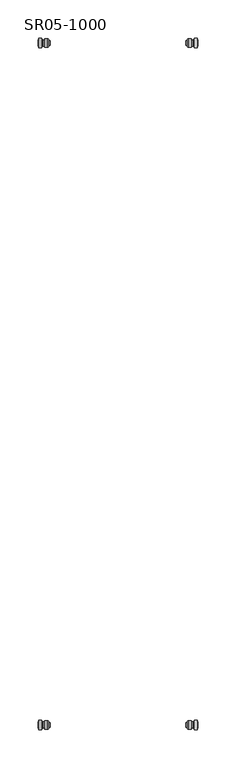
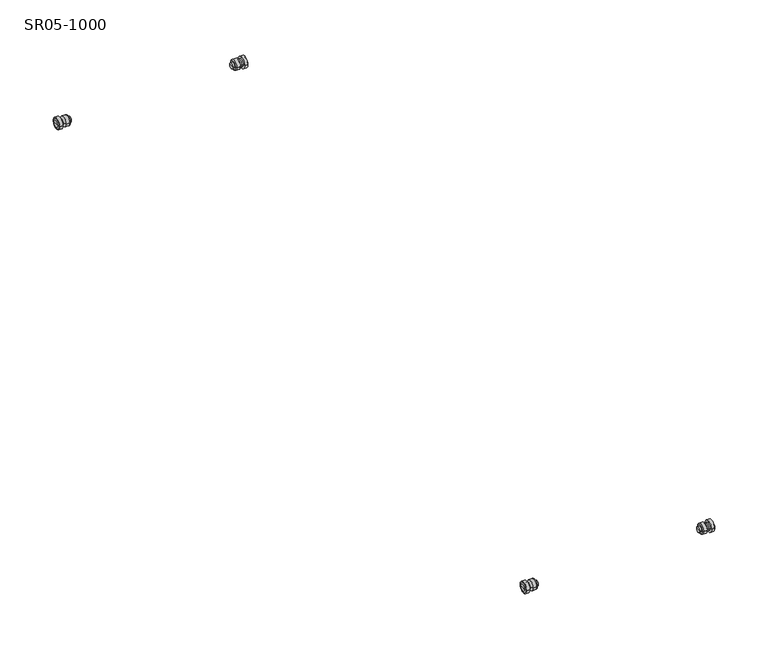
"""IFC4 building model written with IfcOpenShell, lengths in millimetres: proxy geometry, Уголки : SR05-1000."""

from ifc_helpers import new_model, si_unit, point, frame, origin, place, context, project, spatial, circle_curve, ellipse_curve, trimmed, source, transform, mapped, element, save
from ifc_brep_helpers import plane_surface, cylinder_surface, revolved_surface, advanced_brep


def sr05_1000_026dfe76(model_context):
    return source(origin(), model_context, "Body", "AdvancedBrep", [
        advanced_brep(
        [(104.3500066, -445.0, 24.0), (104.3500066, -448.4999948, 24.0), (104.3500066, -441.5000052, 24.0), (88.7499958, -442.0000014, 24.0), (88.7499958, -447.9999986, 24.0), (88.7499958, -445.0, 24.0), (90.7999933, -442.0000014, 24.0), (90.7999933, -447.9999986, 24.0), (90.7999933, -440.5000058, 24.0), (90.7999933, -449.4999942, 24.0), (91.7999994, -439.5000052, 24.0), (91.7999994, -450.4999948, 24.0), (95.7999994, -439.5000038, 24.0), (95.7999994, -450.4999962, 24.0), (97.9999959, -440.8266569, 24.0), (97.9999959, -449.1733431, 24.0), (100.0, -438.7499985, 24.0), (100.0, -451.2500015, 24.0), (100.0, -449.1733431, 24.0), (100.0, -440.8266569, 24.0), (103.4999996, -438.7499985, 24.0), (103.4999996, -451.2500015, 24.0), (103.4999996, -439.6218414, 24.0), (103.4999996, -450.3781586, 24.0)],
        [
            (0, 1),
            (1, 2, circle_curve(frame((104.3500066, -445.0, 24.0), z_axis=(1.0, 0.0, 0.0), x_axis=(0.0, -1.0, 0.0)), 3.4999948)),
            (2, 0),
            (2, 1, circle_curve(frame((104.3500066, -445.0, 24.0), z_axis=(1.0, 0.0, 0.0), x_axis=(0.0, -1.0, 0.0)), 3.4999948)),
            (3, 4, circle_curve(frame((88.7499958, -445.0, 24.0), z_axis=(-1.0, 0.0, 0.0), x_axis=(0.0, -1.0, 0.0)), 2.9999986)),
            (4, 5),
            (5, 3),
            (4, 3, circle_curve(frame((88.7499958, -445.0, 24.0), z_axis=(-1.0, 0.0, 0.0), x_axis=(0.0, -1.0, 0.0)), 2.9999986)),
            (6, 7, circle_curve(frame((90.7999933, -445.0, 24.0), z_axis=(-1.0, 0.0, 0.0), x_axis=(0.0, -1.0, 0.0)), 2.9999986)),
            (7, 4),
            (3, 6),
            (7, 6, circle_curve(frame((90.7999933, -445.0, 24.0), z_axis=(-1.0, 0.0, 0.0), x_axis=(0.0, -1.0, 0.0)), 2.9999986)),
            (8, 9, circle_curve(frame((90.7999933, -445.0, 24.0), z_axis=(-1.0, 0.0, 0.0), x_axis=(0.0, -1.0, 0.0)), 4.4999942)),
            (9, 7),
            (6, 8),
            (9, 8, circle_curve(frame((90.7999933, -445.0, 24.0), z_axis=(-1.0, 0.0, 0.0), x_axis=(0.0, -1.0, 0.0)), 4.4999942)),
            (10, 11, circle_curve(frame((91.7999994, -445.0, 24.0), z_axis=(-1.0, 0.0, 0.0), x_axis=(0.0, -1.0, 0.0)), 5.4999948)),
            (11, 9, circle_curve(frame((91.7999994, -449.4999948, 24.0), z_axis=(0.0, 0.0, -1.0), x_axis=(0.0, 1.0, 0.0)), 1.0)),
            (8, 10, circle_curve(frame((91.7999994, -440.5000052, 24.0), z_axis=(0.0, 0.0, -1.0), x_axis=(0.0, -1.0, 0.0)), 1.0)),
            (11, 10, circle_curve(frame((91.7999994, -445.0, 24.0), z_axis=(-1.0, 0.0, 0.0), x_axis=(0.0, -1.0, 0.0)), 5.4999948)),
            (12, 13, circle_curve(frame((95.7999994, -445.0, 24.0), z_axis=(-1.0, 0.0, 0.0), x_axis=(0.0, -1.0, 0.0)), 5.4999962)),
            (13, 11),
            (10, 12),
            (13, 12, circle_curve(frame((95.7999994, -445.0, 24.0), z_axis=(-1.0, 0.0, 0.0), x_axis=(0.0, -1.0, 0.0)), 5.4999962)),
            (14, 15, circle_curve(frame((97.9999959, -445.0, 24.0), z_axis=(-1.0, 0.0, 0.0), x_axis=(0.0, -1.0, 0.0)), 4.1733431)),
            (15, 13, circle_curve(frame((97.2999994, -450.4999948, 24.0), z_axis=(0.0, 0.0, 1.0), x_axis=(0.0, 1.0, 0.0)), 1.5)),
            (12, 14, circle_curve(frame((97.2999994, -439.5000052, 24.0), z_axis=(0.0, 0.0, 1.0), x_axis=(0.0, -1.0, 0.0)), 1.5)),
            (15, 14, circle_curve(frame((97.9999959, -445.0, 24.0), z_axis=(-1.0, 0.0, 0.0), x_axis=(0.0, -1.0, 0.0)), 4.1733431)),
            (16, 17, circle_curve(frame((100.0, -445.0, 24.0), z_axis=(-1.0, 0.0, 0.0), x_axis=(0.0, -1.0, 0.0)), 6.2500015)),
            (17, 18),
            (18, 19, circle_curve(frame((100.0, -445.0, 24.0), z_axis=(1.0, 0.0, 0.0), x_axis=(0.0, -1.0, 0.0)), 4.1733431)),
            (19, 16),
            (17, 16, circle_curve(frame((100.0, -445.0, 24.0), z_axis=(-1.0, 0.0, 0.0), x_axis=(0.0, -1.0, 0.0)), 6.2500015)),
            (19, 18, circle_curve(frame((100.0, -445.0, 24.0), z_axis=(1.0, 0.0, 0.0), x_axis=(0.0, -1.0, 0.0)), 4.1733431)),
            (20, 21, circle_curve(frame((103.4999996, -445.0, 24.0), z_axis=(-1.0, 0.0, 0.0), x_axis=(0.0, -1.0, 0.0)), 6.2500015)),
            (21, 17),
            (16, 20),
            (21, 20, circle_curve(frame((103.4999996, -445.0, 24.0), z_axis=(-1.0, 0.0, 0.0), x_axis=(0.0, -1.0, 0.0)), 6.2500015)),
            (22, 23, circle_curve(frame((103.4999996, -445.0, 24.0), z_axis=(-1.0, 0.0, 0.0), x_axis=(0.0, -1.0, 0.0)), 5.3781586)),
            (23, 21),
            (20, 22),
            (23, 22, circle_curve(frame((103.4999996, -445.0, 24.0), z_axis=(-1.0, 0.0, 0.0), x_axis=(0.0, -1.0, 0.0)), 5.3781586)),
            (1, 23, circle_curve(frame((101.8499994, -448.4999948, 24.0), z_axis=(0.0, 0.0, -1.0), x_axis=(0.0, 1.0, 0.0)), 2.5)),
            (22, 2, circle_curve(frame((101.8499994, -441.5000052, 24.0), z_axis=(0.0, 0.0, -1.0), x_axis=(0.0, -1.0, 0.0)), 2.5)),
            (18, 15),
            (14, 19),
        ],
        [
            plane_surface(frame((104.3500066, -445.0, 24.0), z_axis=(1.0, 0.0, 0.0), x_axis=(0.0, -1.0, 0.0))),
            plane_surface(frame((88.7499958, -445.0, 24.0), z_axis=(-1.0, 0.0, 0.0), x_axis=(0.0, -1.0, 0.0))),
            cylinder_surface(frame((-1900.0, -445.0, 24.0), z_axis=(1.0, 0.0, 0.0), x_axis=(0.0, -1.0, 0.0)), 2.9999986),
            plane_surface(frame((90.7999933, -445.0, 24.0), z_axis=(-1.0, 0.0, 0.0), x_axis=(0.0, -1.0, 0.0))),
            revolved_surface(trimmed(ellipse_curve(frame((91.7999994, -449.4999948, 24.0), z_axis=(0.0, 0.0, 1.0), x_axis=(0.0, 1.0, 0.0)), 1.0, 1.0), [point((90.7999994, -449.4999948, 24.0))], [point((91.7999994, -450.4999948, 24.0))], True, "CARTESIAN"), (-1900.0, -445.0, 24.0), (1.0, 0.0, 0.0)),
            cylinder_surface(frame((-1900.0, -445.0, 24.0), z_axis=(1.0, 0.0, 0.0), x_axis=(0.0, -1.0, 0.0)), 5.4999962),
            revolved_surface(trimmed(ellipse_curve(frame((97.2999994, -450.4999948, 24.0), z_axis=(0.0, 0.0, -1.0), x_axis=(0.0, 1.0, 0.0)), 1.5, 1.5), [point((95.7999994, -450.4999962, 24.0))], [point((97.9999959, -449.1733431, 24.0))], True, "CARTESIAN"), (-1900.0, -445.0, 24.0), (1.0, 0.0, 0.0)),
            plane_surface(frame((100.0, -445.0, 24.0), z_axis=(-1.0, 0.0, 0.0), x_axis=(0.0, -1.0, 0.0))),
            cylinder_surface(frame((-1900.0, -445.0, 24.0), z_axis=(1.0, 0.0, 0.0), x_axis=(0.0, -1.0, 0.0)), 6.2500015),
            plane_surface(frame((103.4999996, -445.0, 24.0), z_axis=(1.0, 0.0, 0.0), x_axis=(0.0, -1.0, 0.0))),
            revolved_surface(trimmed(ellipse_curve(frame((101.8499994, -448.4999948, 24.0), z_axis=(0.0, 0.0, 1.0), x_axis=(0.0, 1.0, 0.0)), 2.5, 2.5), [point((103.4999996, -450.3781586, 24.0))], [point((104.3499994, -448.4999948, 24.0))], True, "CARTESIAN"), (-1900.0, -445.0, 24.0), (1.0, 0.0, 0.0)),
            cylinder_surface(frame((-1900.0, -445.0, 24.0), z_axis=(1.0, 0.0, 0.0), x_axis=(0.0, -1.0, 0.0)), 4.1733431),
        ],
        [
            (0, [[1, 2, 3]]),
            (0, [[-3, 4, -1]]),
            (1, [[5, 6, 7]]),
            (1, [[8, -7, -6]]),
            (2, [[9, 10, -5, 11]]),
            (2, [[12, -11, -8, -10]]),
            (3, [[13, 14, -9, 15]]),
            (3, [[16, -15, -12, -14]]),
            (4, [[17, 18, -13, 19]]),
            (4, [[20, -19, -16, -18]]),
            (5, [[21, 22, -17, 23]]),
            (5, [[24, -23, -20, -22]]),
            (6, [[25, 26, -21, 27]]),
            (6, [[28, -27, -24, -26]]),
            (7, [[29, 30, 31, 32]]),
            (7, [[33, -32, 34, -30]]),
            (8, [[35, 36, -29, 37]]),
            (8, [[38, -37, -33, -36]]),
            (9, [[39, 40, -35, 41]]),
            (9, [[42, -41, -38, -40]]),
            (10, [[-2, 43, -39, 44]]),
            (10, [[-4, -44, -42, -43]]),
            (11, [[-31, 45, -25, 46]]),
            (11, [[-34, -46, -28, -45]]),
        ],
    ),
        advanced_brep(
        [(104.3500066, 445.0, 24.0), (104.3500066, 441.5000052, 24.0), (104.3500066, 448.4999948, 24.0), (88.7499958, 447.9999986, 24.0), (88.7499958, 442.0000014, 24.0), (88.7499958, 445.0, 24.0), (90.7999933, 447.9999986, 24.0), (90.7999933, 442.0000014, 24.0), (90.7999933, 449.4999942, 24.0), (90.7999933, 440.5000058, 24.0), (91.7999994, 450.4999948, 24.0), (91.7999994, 439.5000052, 24.0), (95.7999994, 450.4999962, 24.0), (95.7999994, 439.5000038, 24.0), (97.9999959, 449.1733431, 24.0), (97.9999959, 440.8266569, 24.0), (100.0, 451.2500015, 24.0), (100.0, 438.7499985, 24.0), (100.0, 440.8266569, 24.0), (100.0, 449.1733431, 24.0), (103.4999996, 451.2500015, 24.0), (103.4999996, 438.7499985, 24.0), (103.4999996, 450.3781586, 24.0), (103.4999996, 439.6218414, 24.0)],
        [
            (0, 1),
            (1, 2, circle_curve(frame((104.3500066, 445.0, 24.0), z_axis=(1.0, 0.0, 0.0), x_axis=(0.0, -1.0, 0.0)), 3.4999948)),
            (2, 0),
            (2, 1, circle_curve(frame((104.3500066, 445.0, 24.0), z_axis=(1.0, 0.0, 0.0), x_axis=(0.0, -1.0, 0.0)), 3.4999948)),
            (3, 4, circle_curve(frame((88.7499958, 445.0, 24.0), z_axis=(-1.0, 0.0, 0.0), x_axis=(0.0, -1.0, 0.0)), 2.9999986)),
            (4, 5),
            (5, 3),
            (4, 3, circle_curve(frame((88.7499958, 445.0, 24.0), z_axis=(-1.0, 0.0, 0.0), x_axis=(0.0, -1.0, 0.0)), 2.9999986)),
            (6, 7, circle_curve(frame((90.7999933, 445.0, 24.0), z_axis=(-1.0, 0.0, 0.0), x_axis=(0.0, -1.0, 0.0)), 2.9999986)),
            (7, 4),
            (3, 6),
            (7, 6, circle_curve(frame((90.7999933, 445.0, 24.0), z_axis=(-1.0, 0.0, 0.0), x_axis=(0.0, -1.0, 0.0)), 2.9999986)),
            (8, 9, circle_curve(frame((90.7999933, 445.0, 24.0), z_axis=(-1.0, 0.0, 0.0), x_axis=(0.0, -1.0, 0.0)), 4.4999942)),
            (9, 7),
            (6, 8),
            (9, 8, circle_curve(frame((90.7999933, 445.0, 24.0), z_axis=(-1.0, 0.0, 0.0), x_axis=(0.0, -1.0, 0.0)), 4.4999942)),
            (10, 11, circle_curve(frame((91.7999994, 445.0, 24.0), z_axis=(-1.0, 0.0, 0.0), x_axis=(0.0, -1.0, 0.0)), 5.4999948)),
            (11, 9, circle_curve(frame((91.7999994, 440.5000052, 24.0), z_axis=(0.0, 0.0, -1.0), x_axis=(0.0, 1.0, 0.0)), 1.0)),
            (8, 10, circle_curve(frame((91.7999994, 449.4999948, 24.0), z_axis=(0.0, 0.0, -1.0), x_axis=(0.0, -1.0, 0.0)), 1.0)),
            (11, 10, circle_curve(frame((91.7999994, 445.0, 24.0), z_axis=(-1.0, 0.0, 0.0), x_axis=(0.0, -1.0, 0.0)), 5.4999948)),
            (12, 13, circle_curve(frame((95.7999994, 445.0, 24.0), z_axis=(-1.0, 0.0, 0.0), x_axis=(0.0, -1.0, 0.0)), 5.4999962)),
            (13, 11),
            (10, 12),
            (13, 12, circle_curve(frame((95.7999994, 445.0, 24.0), z_axis=(-1.0, 0.0, 0.0), x_axis=(0.0, -1.0, 0.0)), 5.4999962)),
            (14, 15, circle_curve(frame((97.9999959, 445.0, 24.0), z_axis=(-1.0, 0.0, 0.0), x_axis=(0.0, -1.0, 0.0)), 4.1733431)),
            (15, 13, circle_curve(frame((97.2999994, 439.5000052, 24.0), z_axis=(0.0, 0.0, 1.0), x_axis=(0.0, 1.0, 0.0)), 1.5)),
            (12, 14, circle_curve(frame((97.2999994, 450.4999948, 24.0), z_axis=(0.0, 0.0, 1.0), x_axis=(0.0, -1.0, 0.0)), 1.5)),
            (15, 14, circle_curve(frame((97.9999959, 445.0, 24.0), z_axis=(-1.0, 0.0, 0.0), x_axis=(0.0, -1.0, 0.0)), 4.1733431)),
            (16, 17, circle_curve(frame((100.0, 445.0, 24.0), z_axis=(-1.0, 0.0, 0.0), x_axis=(0.0, -1.0, 0.0)), 6.2500015)),
            (17, 18),
            (18, 19, circle_curve(frame((100.0, 445.0, 24.0), z_axis=(1.0, 0.0, 0.0), x_axis=(0.0, -1.0, 0.0)), 4.1733431)),
            (19, 16),
            (17, 16, circle_curve(frame((100.0, 445.0, 24.0), z_axis=(-1.0, 0.0, 0.0), x_axis=(0.0, -1.0, 0.0)), 6.2500015)),
            (19, 18, circle_curve(frame((100.0, 445.0, 24.0), z_axis=(1.0, 0.0, 0.0), x_axis=(0.0, -1.0, 0.0)), 4.1733431)),
            (20, 21, circle_curve(frame((103.4999996, 445.0, 24.0), z_axis=(-1.0, 0.0, 0.0), x_axis=(0.0, -1.0, 0.0)), 6.2500015)),
            (21, 17),
            (16, 20),
            (21, 20, circle_curve(frame((103.4999996, 445.0, 24.0), z_axis=(-1.0, 0.0, 0.0), x_axis=(0.0, -1.0, 0.0)), 6.2500015)),
            (22, 23, circle_curve(frame((103.4999996, 445.0, 24.0), z_axis=(-1.0, 0.0, 0.0), x_axis=(0.0, -1.0, 0.0)), 5.3781586)),
            (23, 21),
            (20, 22),
            (23, 22, circle_curve(frame((103.4999996, 445.0, 24.0), z_axis=(-1.0, 0.0, 0.0), x_axis=(0.0, -1.0, 0.0)), 5.3781586)),
            (1, 23, circle_curve(frame((101.8499994, 441.5000052, 24.0), z_axis=(0.0, 0.0, -1.0), x_axis=(0.0, 1.0, 0.0)), 2.5)),
            (22, 2, circle_curve(frame((101.8499994, 448.4999948, 24.0), z_axis=(0.0, 0.0, -1.0), x_axis=(0.0, -1.0, 0.0)), 2.5)),
            (18, 15),
            (14, 19),
        ],
        [
            plane_surface(frame((104.3500066, 445.0, 24.0), z_axis=(1.0, 0.0, 0.0), x_axis=(0.0, -1.0, 0.0))),
            plane_surface(frame((88.7499958, 445.0, 24.0), z_axis=(-1.0, 0.0, 0.0), x_axis=(0.0, -1.0, 0.0))),
            cylinder_surface(frame((-1900.0, 445.0, 24.0), z_axis=(1.0, 0.0, 0.0), x_axis=(0.0, -1.0, 0.0)), 2.9999986),
            plane_surface(frame((90.7999933, 445.0, 24.0), z_axis=(-1.0, 0.0, 0.0), x_axis=(0.0, -1.0, 0.0))),
            revolved_surface(trimmed(ellipse_curve(frame((91.7999994, 440.5000052, 24.0), z_axis=(0.0, 0.0, 1.0), x_axis=(0.0, 1.0, 0.0)), 1.0, 1.0), [point((90.7999994, 440.5000052, 24.0))], [point((91.7999994, 439.5000052, 24.0))], True, "CARTESIAN"), (-1900.0, 445.0, 24.0), (1.0, 0.0, 0.0)),
            cylinder_surface(frame((-1900.0, 445.0, 24.0), z_axis=(1.0, 0.0, 0.0), x_axis=(0.0, -1.0, 0.0)), 5.4999962),
            revolved_surface(trimmed(ellipse_curve(frame((97.2999994, 439.5000052, 24.0), z_axis=(0.0, 0.0, -1.0), x_axis=(0.0, 1.0, 0.0)), 1.5, 1.5), [point((95.7999994, 439.5000038, 24.0))], [point((97.9999959, 440.8266569, 24.0))], True, "CARTESIAN"), (-1900.0, 445.0, 24.0), (1.0, 0.0, 0.0)),
            plane_surface(frame((100.0, 445.0, 24.0), z_axis=(-1.0, 0.0, 0.0), x_axis=(0.0, -1.0, 0.0))),
            cylinder_surface(frame((-1900.0, 445.0, 24.0), z_axis=(1.0, 0.0, 0.0), x_axis=(0.0, -1.0, 0.0)), 6.2500015),
            plane_surface(frame((103.4999996, 445.0, 24.0), z_axis=(1.0, 0.0, 0.0), x_axis=(0.0, -1.0, 0.0))),
            revolved_surface(trimmed(ellipse_curve(frame((101.8499994, 441.5000052, 24.0), z_axis=(0.0, 0.0, 1.0), x_axis=(0.0, 1.0, 0.0)), 2.5, 2.5), [point((103.4999996, 439.6218414, 24.0))], [point((104.3499994, 441.5000052, 24.0))], True, "CARTESIAN"), (-1900.0, 445.0, 24.0), (1.0, 0.0, 0.0)),
            cylinder_surface(frame((-1900.0, 445.0, 24.0), z_axis=(1.0, 0.0, 0.0), x_axis=(0.0, -1.0, 0.0)), 4.1733431),
        ],
        [
            (0, [[1, 2, 3]]),
            (0, [[-3, 4, -1]]),
            (1, [[5, 6, 7]]),
            (1, [[8, -7, -6]]),
            (2, [[9, 10, -5, 11]]),
            (2, [[12, -11, -8, -10]]),
            (3, [[13, 14, -9, 15]]),
            (3, [[16, -15, -12, -14]]),
            (4, [[17, 18, -13, 19]]),
            (4, [[20, -19, -16, -18]]),
            (5, [[21, 22, -17, 23]]),
            (5, [[24, -23, -20, -22]]),
            (6, [[25, 26, -21, 27]]),
            (6, [[28, -27, -24, -26]]),
            (7, [[29, 30, 31, 32]]),
            (7, [[33, -32, 34, -30]]),
            (8, [[35, 36, -29, 37]]),
            (8, [[38, -37, -33, -36]]),
            (9, [[39, 40, -35, 41]]),
            (9, [[42, -41, -38, -40]]),
            (10, [[-2, 43, -39, 44]]),
            (10, [[-4, -44, -42, -43]]),
            (11, [[-31, 45, -25, 46]]),
            (11, [[-34, -46, -28, -45]]),
        ],
    ),
        advanced_brep(
        [(-104.3500066, 445.0, 24.0), (-104.3500066, 448.4999948, 24.0), (-104.3500066, 441.5000052, 24.0), (-88.7499958, 442.0000014, 24.0), (-88.7499958, 447.9999986, 24.0), (-88.7499958, 445.0, 24.0), (-90.7999933, 442.0000014, 24.0), (-90.7999933, 447.9999986, 24.0), (-90.7999933, 440.5000058, 24.0), (-90.7999933, 449.4999942, 24.0), (-91.7999994, 439.5000052, 24.0), (-91.7999994, 450.4999948, 24.0), (-95.7999994, 439.5000038, 24.0), (-95.7999994, 450.4999962, 24.0), (-97.9999959, 440.8266569, 24.0), (-97.9999959, 449.1733431, 24.0), (-100.0, 438.7499985, 24.0), (-100.0, 451.2500015, 24.0), (-100.0, 449.1733431, 24.0), (-100.0, 440.8266569, 24.0), (-103.4999996, 438.7499985, 24.0), (-103.4999996, 451.2500015, 24.0), (-103.4999996, 439.6218414, 24.0), (-103.4999996, 450.3781586, 24.0)],
        [
            (0, 1),
            (1, 2, circle_curve(frame((-104.3500066, 445.0, 24.0), z_axis=(-1.0, 0.0, 0.0), x_axis=(0.0, 1.0, 0.0)), 3.4999948)),
            (2, 0),
            (2, 1, circle_curve(frame((-104.3500066, 445.0, 24.0), z_axis=(-1.0, 0.0, 0.0), x_axis=(0.0, 1.0, 0.0)), 3.4999948)),
            (3, 4, circle_curve(frame((-88.7499958, 445.0, 24.0), z_axis=(1.0, 0.0, 0.0), x_axis=(0.0, 1.0, 0.0)), 2.9999986)),
            (4, 5),
            (5, 3),
            (4, 3, circle_curve(frame((-88.7499958, 445.0, 24.0), z_axis=(1.0, 0.0, 0.0), x_axis=(0.0, 1.0, 0.0)), 2.9999986)),
            (6, 7, circle_curve(frame((-90.7999933, 445.0, 24.0), z_axis=(1.0, 0.0, 0.0), x_axis=(0.0, 1.0, 0.0)), 2.9999986)),
            (7, 4),
            (3, 6),
            (7, 6, circle_curve(frame((-90.7999933, 445.0, 24.0), z_axis=(1.0, 0.0, 0.0), x_axis=(0.0, 1.0, 0.0)), 2.9999986)),
            (8, 9, circle_curve(frame((-90.7999933, 445.0, 24.0), z_axis=(1.0, 0.0, 0.0), x_axis=(0.0, 1.0, 0.0)), 4.4999942)),
            (9, 7),
            (6, 8),
            (9, 8, circle_curve(frame((-90.7999933, 445.0, 24.0), z_axis=(1.0, 0.0, 0.0), x_axis=(0.0, 1.0, 0.0)), 4.4999942)),
            (10, 11, circle_curve(frame((-91.7999994, 445.0, 24.0), z_axis=(1.0, 0.0, 0.0), x_axis=(0.0, 1.0, 0.0)), 5.4999948)),
            (11, 9, circle_curve(frame((-91.7999994, 449.4999948, 24.0), z_axis=(0.0, 0.0, -1.0), x_axis=(0.0, -1.0, 0.0)), 1.0)),
            (8, 10, circle_curve(frame((-91.7999994, 440.5000052, 24.0), z_axis=(0.0, 0.0, -1.0), x_axis=(0.0, 1.0, 0.0)), 1.0)),
            (11, 10, circle_curve(frame((-91.7999994, 445.0, 24.0), z_axis=(1.0, 0.0, 0.0), x_axis=(0.0, 1.0, 0.0)), 5.4999948)),
            (12, 13, circle_curve(frame((-95.7999994, 445.0, 24.0), z_axis=(1.0, 0.0, 0.0), x_axis=(0.0, 1.0, 0.0)), 5.4999962)),
            (13, 11),
            (10, 12),
            (13, 12, circle_curve(frame((-95.7999994, 445.0, 24.0), z_axis=(1.0, 0.0, 0.0), x_axis=(0.0, 1.0, 0.0)), 5.4999962)),
            (14, 15, circle_curve(frame((-97.9999959, 445.0, 24.0), z_axis=(1.0, 0.0, 0.0), x_axis=(0.0, 1.0, 0.0)), 4.1733431)),
            (15, 13, circle_curve(frame((-97.2999994, 450.4999948, 24.0), z_axis=(0.0, 0.0, 1.0), x_axis=(0.0, -1.0, 0.0)), 1.5)),
            (12, 14, circle_curve(frame((-97.2999994, 439.5000052, 24.0), z_axis=(0.0, 0.0, 1.0), x_axis=(0.0, 1.0, 0.0)), 1.5)),
            (15, 14, circle_curve(frame((-97.9999959, 445.0, 24.0), z_axis=(1.0, 0.0, 0.0), x_axis=(0.0, 1.0, 0.0)), 4.1733431)),
            (16, 17, circle_curve(frame((-100.0, 445.0, 24.0), z_axis=(1.0, 0.0, 0.0), x_axis=(0.0, 1.0, 0.0)), 6.2500015)),
            (17, 18),
            (18, 19, circle_curve(frame((-100.0, 445.0, 24.0), z_axis=(-1.0, 0.0, 0.0), x_axis=(0.0, 1.0, 0.0)), 4.1733431)),
            (19, 16),
            (17, 16, circle_curve(frame((-100.0, 445.0, 24.0), z_axis=(1.0, 0.0, 0.0), x_axis=(0.0, 1.0, 0.0)), 6.2500015)),
            (19, 18, circle_curve(frame((-100.0, 445.0, 24.0), z_axis=(-1.0, 0.0, 0.0), x_axis=(0.0, 1.0, 0.0)), 4.1733431)),
            (20, 21, circle_curve(frame((-103.4999996, 445.0, 24.0), z_axis=(1.0, 0.0, 0.0), x_axis=(0.0, 1.0, 0.0)), 6.2500015)),
            (21, 17),
            (16, 20),
            (21, 20, circle_curve(frame((-103.4999996, 445.0, 24.0), z_axis=(1.0, 0.0, 0.0), x_axis=(0.0, 1.0, 0.0)), 6.2500015)),
            (22, 23, circle_curve(frame((-103.4999996, 445.0, 24.0), z_axis=(1.0, 0.0, 0.0), x_axis=(0.0, 1.0, 0.0)), 5.3781586)),
            (23, 21),
            (20, 22),
            (23, 22, circle_curve(frame((-103.4999996, 445.0, 24.0), z_axis=(1.0, 0.0, 0.0), x_axis=(0.0, 1.0, 0.0)), 5.3781586)),
            (1, 23, circle_curve(frame((-101.8499994, 448.4999948, 24.0), z_axis=(0.0, 0.0, -1.0), x_axis=(0.0, -1.0, 0.0)), 2.5)),
            (22, 2, circle_curve(frame((-101.8499994, 441.5000052, 24.0), z_axis=(0.0, 0.0, -1.0), x_axis=(0.0, 1.0, 0.0)), 2.5)),
            (18, 15),
            (14, 19),
        ],
        [
            plane_surface(frame((-104.3500066, 445.0, 24.0), z_axis=(-1.0, 0.0, 0.0), x_axis=(0.0, 1.0, 0.0))),
            plane_surface(frame((-88.7499958, 445.0, 24.0), z_axis=(1.0, 0.0, 0.0), x_axis=(0.0, 1.0, 0.0))),
            cylinder_surface(frame((1900.0, 445.0, 24.0), z_axis=(-1.0, 0.0, 0.0), x_axis=(0.0, 1.0, 0.0)), 2.9999986),
            plane_surface(frame((-90.7999933, 445.0, 24.0), z_axis=(1.0, 0.0, 0.0), x_axis=(0.0, 1.0, 0.0))),
            revolved_surface(trimmed(ellipse_curve(frame((-91.7999994, 449.4999948, 24.0), z_axis=(0.0, 0.0, 1.0), x_axis=(0.0, -1.0, 0.0)), 1.0, 1.0), [point((-90.7999994, 449.4999948, 24.0))], [point((-91.7999994, 450.4999948, 24.0))], True, "CARTESIAN"), (1900.0, 445.0, 24.0), (-1.0, 0.0, 0.0)),
            cylinder_surface(frame((1900.0, 445.0, 24.0), z_axis=(-1.0, 0.0, 0.0), x_axis=(0.0, 1.0, 0.0)), 5.4999962),
            revolved_surface(trimmed(ellipse_curve(frame((-97.2999994, 450.4999948, 24.0), z_axis=(0.0, 0.0, -1.0), x_axis=(0.0, -1.0, 0.0)), 1.5, 1.5), [point((-95.7999994, 450.4999962, 24.0))], [point((-97.9999959, 449.1733431, 24.0))], True, "CARTESIAN"), (1900.0, 445.0, 24.0), (-1.0, 0.0, 0.0)),
            plane_surface(frame((-100.0, 445.0, 24.0), z_axis=(1.0, 0.0, 0.0), x_axis=(0.0, 1.0, 0.0))),
            cylinder_surface(frame((1900.0, 445.0, 24.0), z_axis=(-1.0, 0.0, 0.0), x_axis=(0.0, 1.0, 0.0)), 6.2500015),
            plane_surface(frame((-103.4999996, 445.0, 24.0), z_axis=(-1.0, 0.0, 0.0), x_axis=(0.0, 1.0, 0.0))),
            revolved_surface(trimmed(ellipse_curve(frame((-101.8499994, 448.4999948, 24.0), z_axis=(0.0, 0.0, 1.0), x_axis=(0.0, -1.0, 0.0)), 2.5, 2.5), [point((-103.4999996, 450.3781586, 24.0))], [point((-104.3499994, 448.4999948, 24.0))], True, "CARTESIAN"), (1900.0, 445.0, 24.0), (-1.0, 0.0, 0.0)),
            cylinder_surface(frame((1900.0, 445.0, 24.0), z_axis=(-1.0, 0.0, 0.0), x_axis=(0.0, 1.0, 0.0)), 4.1733431),
        ],
        [
            (0, [[1, 2, 3]]),
            (0, [[-3, 4, -1]]),
            (1, [[5, 6, 7]]),
            (1, [[8, -7, -6]]),
            (2, [[9, 10, -5, 11]]),
            (2, [[12, -11, -8, -10]]),
            (3, [[13, 14, -9, 15]]),
            (3, [[16, -15, -12, -14]]),
            (4, [[17, 18, -13, 19]]),
            (4, [[20, -19, -16, -18]]),
            (5, [[21, 22, -17, 23]]),
            (5, [[24, -23, -20, -22]]),
            (6, [[25, 26, -21, 27]]),
            (6, [[28, -27, -24, -26]]),
            (7, [[29, 30, 31, 32]]),
            (7, [[33, -32, 34, -30]]),
            (8, [[35, 36, -29, 37]]),
            (8, [[38, -37, -33, -36]]),
            (9, [[39, 40, -35, 41]]),
            (9, [[42, -41, -38, -40]]),
            (10, [[-2, 43, -39, 44]]),
            (10, [[-4, -44, -42, -43]]),
            (11, [[-31, 45, -25, 46]]),
            (11, [[-34, -46, -28, -45]]),
        ],
    ),
        advanced_brep(
        [(-104.3500066, -445.0, 24.0), (-104.3500066, -441.5000052, 24.0), (-104.3500066, -448.4999948, 24.0), (-88.7499958, -447.9999986, 24.0), (-88.7499958, -442.0000014, 24.0), (-88.7499958, -445.0, 24.0), (-90.7999933, -447.9999986, 24.0), (-90.7999933, -442.0000014, 24.0), (-90.7999933, -449.4999942, 24.0), (-90.7999933, -440.5000058, 24.0), (-91.7999994, -450.4999948, 24.0), (-91.7999994, -439.5000052, 24.0), (-95.7999994, -450.4999962, 24.0), (-95.7999994, -439.5000038, 24.0), (-97.9999959, -449.1733431, 24.0), (-97.9999959, -440.8266569, 24.0), (-100.0, -451.2500015, 24.0), (-100.0, -438.7499985, 24.0), (-100.0, -440.8266569, 24.0), (-100.0, -449.1733431, 24.0), (-103.4999996, -451.2500015, 24.0), (-103.4999996, -438.7499985, 24.0), (-103.4999996, -450.3781586, 24.0), (-103.4999996, -439.6218414, 24.0)],
        [
            (0, 1),
            (1, 2, circle_curve(frame((-104.3500066, -445.0, 24.0), z_axis=(-1.0, 0.0, 0.0), x_axis=(0.0, 1.0000000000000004, 0.0)), 3.4999948)),
            (2, 0),
            (2, 1, circle_curve(frame((-104.3500066, -445.0, 24.0), z_axis=(-1.0, 0.0, 0.0), x_axis=(0.0, 1.0000000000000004, 0.0)), 3.4999948)),
            (3, 4, circle_curve(frame((-88.7499958, -445.0, 24.0), z_axis=(1.0, 0.0, 0.0), x_axis=(0.0, 1.0000000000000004, 0.0)), 2.9999986)),
            (4, 5),
            (5, 3),
            (4, 3, circle_curve(frame((-88.7499958, -445.0, 24.0), z_axis=(1.0, 0.0, 0.0), x_axis=(0.0, 1.0000000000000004, 0.0)), 2.9999986)),
            (6, 7, circle_curve(frame((-90.7999933, -445.0, 24.0), z_axis=(1.0, 0.0, 0.0), x_axis=(0.0, 1.0000000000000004, 0.0)), 2.9999986)),
            (7, 4),
            (3, 6),
            (7, 6, circle_curve(frame((-90.7999933, -445.0, 24.0), z_axis=(1.0, 0.0, 0.0), x_axis=(0.0, 1.0000000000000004, 0.0)), 2.9999986)),
            (8, 9, circle_curve(frame((-90.7999933, -445.0, 24.0), z_axis=(1.0, 0.0, 0.0), x_axis=(0.0, 1.0000000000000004, 0.0)), 4.4999942)),
            (9, 7),
            (6, 8),
            (9, 8, circle_curve(frame((-90.7999933, -445.0, 24.0), z_axis=(1.0, 0.0, 0.0), x_axis=(0.0, 1.0000000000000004, 0.0)), 4.4999942)),
            (10, 11, circle_curve(frame((-91.7999994, -445.0, 24.0), z_axis=(1.0, 0.0, 0.0), x_axis=(0.0, 1.0000000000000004, 0.0)), 5.4999948)),
            (11, 9, circle_curve(frame((-91.7999994, -440.5000052, 24.0), z_axis=(0.0, 0.0, -1.0), x_axis=(0.0, -1.0000000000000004, 0.0)), 1.0)),
            (8, 10, circle_curve(frame((-91.7999994, -449.4999948, 24.0), z_axis=(0.0, 0.0, -1.0), x_axis=(0.0, 1.0000000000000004, 0.0)), 1.0)),
            (11, 10, circle_curve(frame((-91.7999994, -445.0, 24.0), z_axis=(1.0, 0.0, 0.0), x_axis=(0.0, 1.0000000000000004, 0.0)), 5.4999948)),
            (12, 13, circle_curve(frame((-95.7999994, -445.0, 24.0), z_axis=(1.0, 0.0, 0.0), x_axis=(0.0, 1.0000000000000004, 0.0)), 5.4999962)),
            (13, 11),
            (10, 12),
            (13, 12, circle_curve(frame((-95.7999994, -445.0, 24.0), z_axis=(1.0, 0.0, 0.0), x_axis=(0.0, 1.0000000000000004, 0.0)), 5.4999962)),
            (14, 15, circle_curve(frame((-97.9999959, -445.0, 24.0), z_axis=(1.0, 0.0, 0.0), x_axis=(0.0, 1.0000000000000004, 0.0)), 4.1733431)),
            (15, 13, circle_curve(frame((-97.2999994, -439.5000052, 24.0), z_axis=(0.0, 0.0, 1.0), x_axis=(0.0, -1.0000000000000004, 0.0)), 1.5)),
            (12, 14, circle_curve(frame((-97.2999994, -450.4999948, 24.0), z_axis=(0.0, 0.0, 1.0), x_axis=(0.0, 1.0000000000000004, 0.0)), 1.5)),
            (15, 14, circle_curve(frame((-97.9999959, -445.0, 24.0), z_axis=(1.0, 0.0, 0.0), x_axis=(0.0, 1.0000000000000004, 0.0)), 4.1733431)),
            (16, 17, circle_curve(frame((-100.0, -445.0, 24.0), z_axis=(1.0, 0.0, 0.0), x_axis=(0.0, 1.0000000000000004, 0.0)), 6.2500015)),
            (17, 18),
            (18, 19, circle_curve(frame((-100.0, -445.0, 24.0), z_axis=(-1.0, 0.0, 0.0), x_axis=(0.0, 1.0000000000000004, 0.0)), 4.1733431)),
            (19, 16),
            (17, 16, circle_curve(frame((-100.0, -445.0, 24.0), z_axis=(1.0, 0.0, 0.0), x_axis=(0.0, 1.0000000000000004, 0.0)), 6.2500015)),
            (19, 18, circle_curve(frame((-100.0, -445.0, 24.0), z_axis=(-1.0, 0.0, 0.0), x_axis=(0.0, 1.0000000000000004, 0.0)), 4.1733431)),
            (20, 21, circle_curve(frame((-103.4999996, -445.0, 24.0), z_axis=(1.0, 0.0, 0.0), x_axis=(0.0, 1.0000000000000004, 0.0)), 6.2500015)),
            (21, 17),
            (16, 20),
            (21, 20, circle_curve(frame((-103.4999996, -445.0, 24.0), z_axis=(1.0, 0.0, 0.0), x_axis=(0.0, 1.0000000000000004, 0.0)), 6.2500015)),
            (22, 23, circle_curve(frame((-103.4999996, -445.0, 24.0), z_axis=(1.0, 0.0, 0.0), x_axis=(0.0, 1.0000000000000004, 0.0)), 5.3781586)),
            (23, 21),
            (20, 22),
            (23, 22, circle_curve(frame((-103.4999996, -445.0, 24.0), z_axis=(1.0, 0.0, 0.0), x_axis=(0.0, 1.0000000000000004, 0.0)), 5.3781586)),
            (1, 23, circle_curve(frame((-101.8499994, -441.5000052, 24.0), z_axis=(0.0, 0.0, -1.0), x_axis=(0.0, -1.0000000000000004, 0.0)), 2.5)),
            (22, 2, circle_curve(frame((-101.8499994, -448.4999948, 24.0), z_axis=(0.0, 0.0, -1.0), x_axis=(0.0, 1.0000000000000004, 0.0)), 2.5)),
            (18, 15),
            (14, 19),
        ],
        [
            plane_surface(frame((-104.3500066, -445.0, 24.0), z_axis=(-1.0, 0.0, 0.0), x_axis=(0.0, 1.0, 0.0))),
            plane_surface(frame((-88.7499958, -445.0, 24.0), z_axis=(1.0, 0.0, 0.0), x_axis=(0.0, 1.0, 0.0))),
            cylinder_surface(frame((1900.0, -445.0, 24.0), z_axis=(-1.0000000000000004, 0.0, 0.0), x_axis=(0.0, 1.0000000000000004, 0.0)), 2.9999986),
            plane_surface(frame((-90.7999933, -445.0, 24.0), z_axis=(1.0, 0.0, 0.0), x_axis=(0.0, 1.0, 0.0))),
            revolved_surface(trimmed(ellipse_curve(frame((-91.7999994, -440.5000052, 24.0), z_axis=(0.0, 0.0, 1.0), x_axis=(0.0, -1.0000000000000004, 0.0)), 1.0, 1.0), [point((-90.7999994, -440.5000052, 24.0))], [point((-91.7999994, -439.5000052, 24.0))], True, "CARTESIAN"), (1900.0, -445.0, 24.0), (-1.0000000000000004, 0.0, 0.0)),
            cylinder_surface(frame((1900.0, -445.0, 24.0), z_axis=(-1.0000000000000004, 0.0, 0.0), x_axis=(0.0, 1.0000000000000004, 0.0)), 5.4999962),
            revolved_surface(trimmed(ellipse_curve(frame((-97.2999994, -439.5000052, 24.0), z_axis=(0.0, 0.0, -1.0), x_axis=(0.0, -1.0000000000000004, 0.0)), 1.5, 1.5), [point((-95.7999994, -439.5000038, 24.0))], [point((-97.9999959, -440.8266569, 24.0))], True, "CARTESIAN"), (1900.0, -445.0, 24.0), (-1.0000000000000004, 0.0, 0.0)),
            plane_surface(frame((-100.0, -445.0, 24.0), z_axis=(1.0, 0.0, 0.0), x_axis=(0.0, 1.0, 0.0))),
            cylinder_surface(frame((1900.0, -445.0, 24.0), z_axis=(-1.0000000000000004, 0.0, 0.0), x_axis=(0.0, 1.0000000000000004, 0.0)), 6.2500015),
            plane_surface(frame((-103.4999996, -445.0, 24.0), z_axis=(-1.0, 0.0, 0.0), x_axis=(0.0, 1.0, 0.0))),
            revolved_surface(trimmed(ellipse_curve(frame((-101.8499994, -441.5000052, 24.0), z_axis=(0.0, 0.0, 1.0), x_axis=(0.0, -1.0000000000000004, 0.0)), 2.5, 2.5), [point((-103.4999996, -439.6218414, 24.0))], [point((-104.3499994, -441.5000052, 24.0))], True, "CARTESIAN"), (1900.0, -445.0, 24.0), (-1.0000000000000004, 0.0, 0.0)),
            cylinder_surface(frame((1900.0, -445.0, 24.0), z_axis=(-1.0000000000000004, 0.0, 0.0), x_axis=(0.0, 1.0000000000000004, 0.0)), 4.1733431),
        ],
        [
            (0, [[1, 2, 3]]),
            (0, [[-3, 4, -1]]),
            (1, [[5, 6, 7]]),
            (1, [[8, -7, -6]]),
            (2, [[9, 10, -5, 11]]),
            (2, [[12, -11, -8, -10]]),
            (3, [[13, 14, -9, 15]]),
            (3, [[16, -15, -12, -14]]),
            (4, [[17, 18, -13, 19]]),
            (4, [[20, -19, -16, -18]]),
            (5, [[21, 22, -17, 23]]),
            (5, [[24, -23, -20, -22]]),
            (6, [[25, 26, -21, 27]]),
            (6, [[28, -27, -24, -26]]),
            (7, [[29, 30, 31, 32]]),
            (7, [[33, -32, 34, -30]]),
            (8, [[35, 36, -29, 37]]),
            (8, [[38, -37, -33, -36]]),
            (9, [[39, 40, -35, 41]]),
            (9, [[42, -41, -38, -40]]),
            (10, [[-2, 43, -39, 44]]),
            (10, [[-4, -44, -42, -43]]),
            (11, [[-31, 45, -25, 46]]),
            (11, [[-34, -46, -28, -45]]),
        ],
    ),
    ])


if __name__ == "__main__":
    model = new_model("IFC4")
    model_context = context("Model", 3, world=origin())
    ifc_project = project(units=[si_unit("LENGTHUNIT", "METRE", prefix="MILLI")], contexts=[model_context])
    site = spatial("IfcSite", under=ifc_project)
    building = spatial("IfcBuilding", under=site)
    placement = place(None, origin())
    sr05_1000_shape = sr05_1000_026dfe76(model_context)
    element("IfcBuildingElementProxy", 1, Name="Уголки : SR05-1000", ObjectType="Уголки : SR05-1000", at=placement, inside=building, context=model_context, shape_type="MappedRepresentation", body=[
        mapped(sr05_1000_shape, transform((0.0, 0.0, 0.0), x_axis=(1.0, 0.0, 0.0), y_axis=(0.0, 1.0, 0.0), z_axis=(0.0, 0.0, 1.0))),
    ])
    save(model, "model.ifc")
